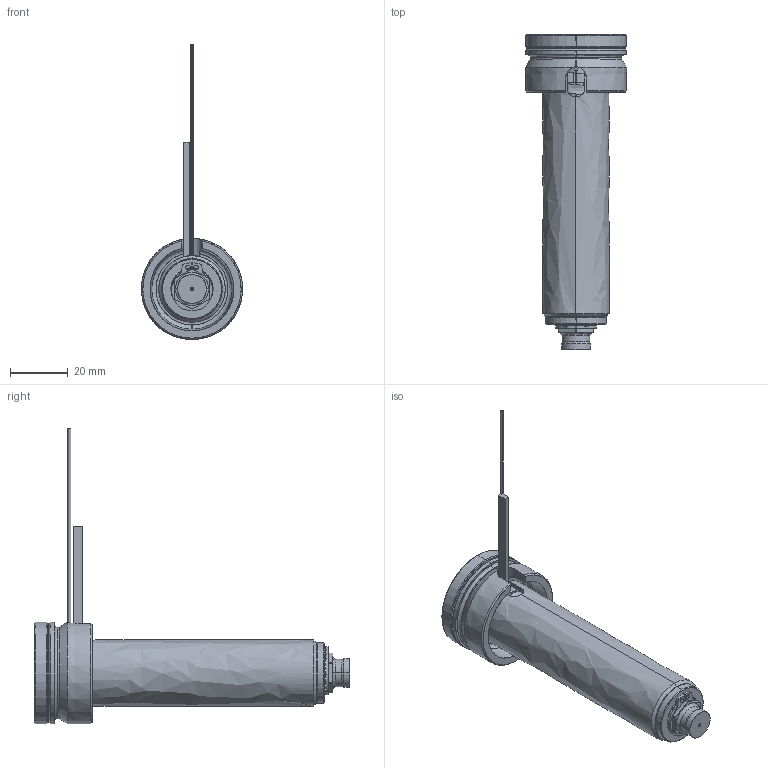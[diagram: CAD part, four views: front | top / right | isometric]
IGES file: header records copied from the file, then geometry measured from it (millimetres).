
Start section: SolidWorks IGES file using analytic representation for surfaces
Global section: file name: C:\Documents and Settings\ws-20\Desktop\TEM\UGEP3152-S-A-0 [Øf-0.30 P-0 ØC-7.0].IGS; native system: SolidWorks 2012; preprocessor: SolidWorks 2012; author: ws-20; date: 120404.082044; units: millimetre
Bounding box: 35 x 109 x 102.1 mm (x, y, z)
Surface area: 19116.3 mm2 (no closed solid volume)
Topology: 0 solids, 0 shells, 121 faces, 1916 edges, 1916 vertices
Faces by surface type: revolution 71, bspline 50
